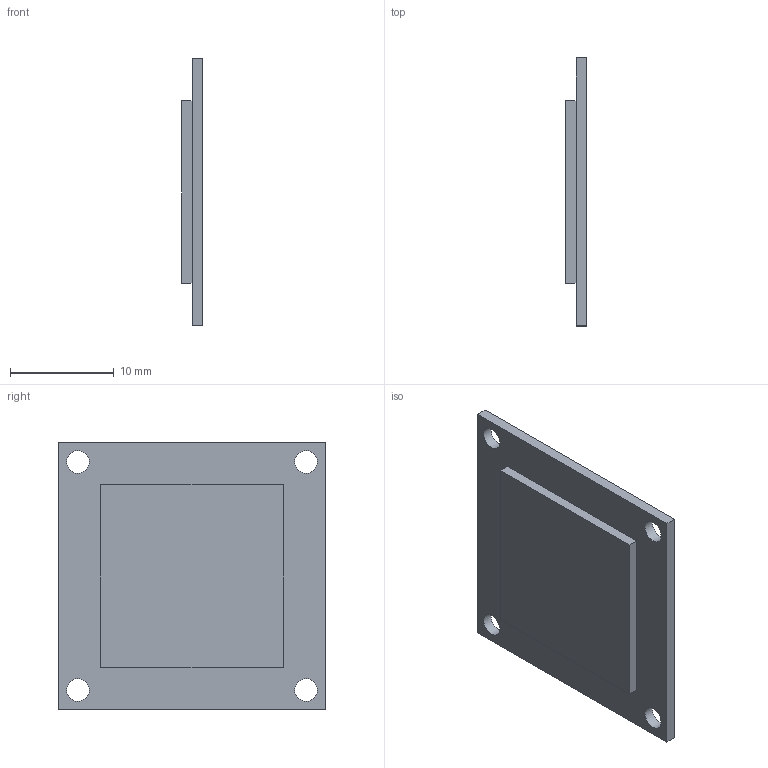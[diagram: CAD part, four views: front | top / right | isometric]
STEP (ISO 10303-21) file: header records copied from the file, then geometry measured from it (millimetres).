
FILE_DESCRIPTION(('Open CASCADE Model'),'2;1');
FILE_NAME('Open CASCADE Shape Model','2026-11-09T21:30:06',('Author'),( 'Open CASCADE'),'Open CASCADE STEP processor 8.0','Open CASCADE 8.0' ,'Unknown');
FILE_SCHEMA(('AUTOMOTIVE_DESIGN { 1 0 10303 214 1 1 1 1 }'));
Length unit declared in the file: millimetre
Products named in the file (1): Open CASCADE STEP translator 8.0 11
Bounding box: 2 x 25.8 x 25.8 mm (x, y, z)
Volume: 960.2 mm3; surface area: 1502.1 mm2
Topology: 1 solids, 1 shells, 15 faces, 36 edges, 24 vertices
Faces by surface type: plane 11, cylinder 4
Full cylindrical faces by diameter (mm): 2.2 x4
Entity records: 924 total; most frequent: CARTESIAN_POINT 156, DIRECTION 140, LINE 84, VECTOR 84, ORIENTED_EDGE 72, PCURVE 72, DEFINITIONAL_REPRESENTATION 72, EDGE_CURVE 36
